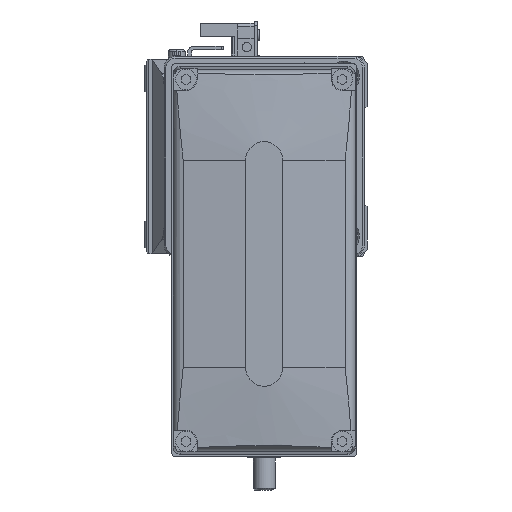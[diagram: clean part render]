
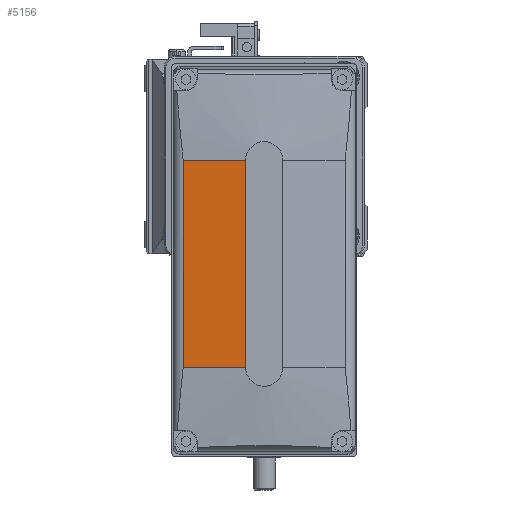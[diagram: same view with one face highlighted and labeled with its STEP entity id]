
A CAD part, left-side view. The second image highlights one B-rep face of the part: STEP entity #5156.
In plain terms, the highlighted planar face has unit normal (-0.996, 0.087, 0) as drawn and (-0.996, 0, -0.087) by its records, which use the part's own axes.
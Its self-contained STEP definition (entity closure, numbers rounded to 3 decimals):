
#1538 = CARTESIAN_POINT ( 'NONE',  ( -48.525, 28., -21.861 ) ) ;
#1573 = EDGE_CURVE ( 'NONE', #29884, #26865, #36261, .T. ) ;
#4420 = CARTESIAN_POINT ( 'NONE',  ( 43606.406, 28., -499000. ) ) ;
#4983 = PLANE ( 'NONE',  #29484 ) ;
#5156 = ADVANCED_FACE ( 'NONE', ( #31625 ), #4983, .T. ) ;
#5229 = CARTESIAN_POINT ( 'NONE',  ( -50., 128., -5. ) ) ;
#7050 = ORIENTED_EDGE ( 'NONE', *, *, #37318, .F. ) ;
#8664 = LINE ( 'NONE', #4420, #27658 ) ;
#10069 = EDGE_CURVE ( 'NONE', #32518, #25094, #24161, .T. ) ;
#10519 = ORIENTED_EDGE ( 'NONE', *, *, #34853, .F. ) ;
#10814 = CARTESIAN_POINT ( 'NONE',  ( -48.525, 128., -21.861 ) ) ;
#13167 = CARTESIAN_POINT ( 'NONE',  ( -50., -28., -5. ) ) ;
#13416 = ORIENTED_EDGE ( 'NONE', *, *, #1573, .F. ) ;
#13686 = DIRECTION ( 'NONE',  ( 0.087, 0., -0.996 ) ) ;
#13707 = LINE ( 'NONE', #36687, #26298 ) ;
#16238 = DIRECTION ( 'NONE',  ( -0.087, 0., 0.996 ) ) ;
#16388 = DIRECTION ( 'NONE',  ( -0.996, 0., -0.087 ) ) ;
#19983 = CARTESIAN_POINT ( 'NONE',  ( -50., 128., -5. ) ) ;
#24161 = LINE ( 'NONE', #19983, #35508 ) ;
#25094 = VERTEX_POINT ( 'NONE', #36629 ) ;
#26298 = VECTOR ( 'NONE', #13686, 1000. ) ;
#26865 = VERTEX_POINT ( 'NONE', #1538 ) ;
#27658 = VECTOR ( 'NONE', #16238, 1000. ) ;
#28525 = VECTOR ( 'NONE', #31292, 1000. ) ;
#29484 = AXIS2_PLACEMENT_3D ( 'NONE', #5229, #16388, #31015 ) ;
#29884 = VERTEX_POINT ( 'NONE', #34305 ) ;
#31015 = DIRECTION ( 'NONE',  ( -0.087, 0., 0.996 ) ) ;
#31292 = DIRECTION ( 'NONE',  ( 0., 1., 0. ) ) ;
#31625 = FACE_OUTER_BOUND ( 'NONE', #32701, .T. ) ;
#32518 = VERTEX_POINT ( 'NONE', #13167 ) ;
#32701 = EDGE_LOOP ( 'NONE', ( #7050, #13416, #10519, #32911 ) ) ;
#32911 = ORIENTED_EDGE ( 'NONE', *, *, #10069, .T. ) ;
#34174 = DIRECTION ( 'NONE',  ( 0., 1., 0. ) ) ;
#34305 = CARTESIAN_POINT ( 'NONE',  ( -48.525, -28., -21.861 ) ) ;
#34853 = EDGE_CURVE ( 'NONE', #32518, #29884, #13707, .T. ) ;
#35508 = VECTOR ( 'NONE', #34174, 1000. ) ;
#36261 = LINE ( 'NONE', #10814, #28525 ) ;
#36629 = CARTESIAN_POINT ( 'NONE',  ( -50., 28., -5. ) ) ;
#36687 = CARTESIAN_POINT ( 'NONE',  ( 43606.406, -28., -499000. ) ) ;
#37318 = EDGE_CURVE ( 'NONE', #26865, #25094, #8664, .T. ) ;
